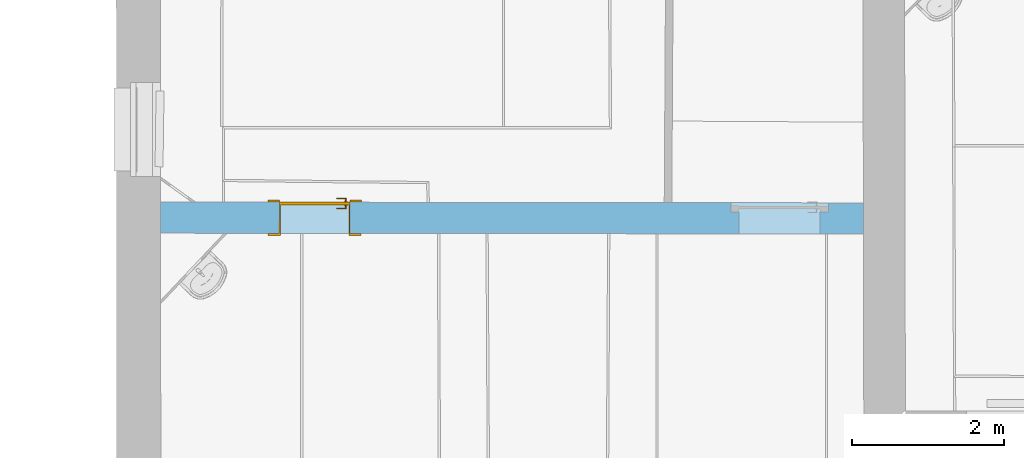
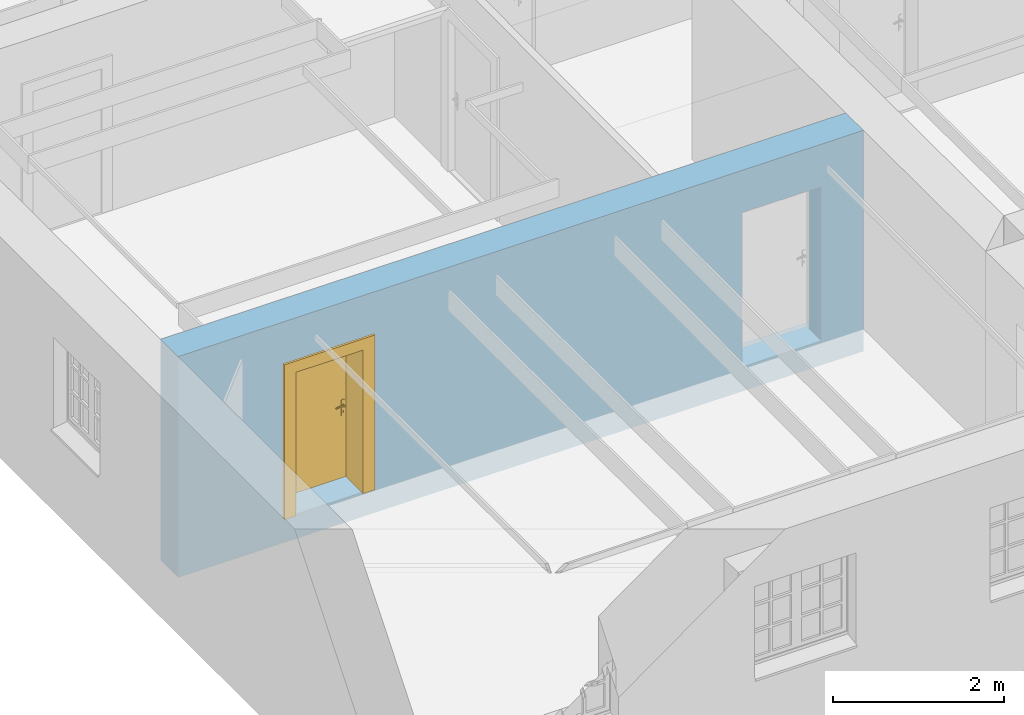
# One storey, part 70 of 196: 1 door, 2 openings, plus 1 element that does not belong to this part.
"""IFC2X3 building model written with IfcOpenShell, lengths in metres."""

from ifc_helpers import new_model, entity, si_unit, converted_unit, derived_unit, money_unit, direction, frame, origin_with_axes, origin_2d_with_axis, place, context, subcontext, project, spatial, polyline, rectangle, outline, extrude, open_shell, faceted_brep, surface_model, material, layer, layer_set, layer_usage, type_object, element, fill, save


model = new_model("IFC2X3")

# Units and contexts
model_context = context("Model", 3, precision=1e-05, world=origin_with_axes(), true_north=direction((0.0, 1.0)))
body_context = subcontext(model_context, "Body", "Model", "MODEL_VIEW")
ifc_project = project(units=[si_unit("LENGTHUNIT", "METRE"), si_unit("AREAUNIT", "SQUARE_METRE"), si_unit("VOLUMEUNIT", "CUBIC_METRE"), converted_unit("PLANEANGLEUNIT", "DEGREE", entity("IfcPlaneAngleMeasure", 0.0174532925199), si_unit("PLANEANGLEUNIT", "RADIAN"), dimensions=[0, 0, 0, 0, 0, 0, 0]), money_unit("EUR"), converted_unit("TIMEUNIT", "Year", entity("IfcTimeMeasure", 31556926.0), si_unit("TIMEUNIT", "SECOND"), dimensions=[0, 0, 1, 0, 0, 0, 0]), si_unit("MASSUNIT", "GRAM", prefix="KILO"), si_unit("THERMODYNAMICTEMPERATUREUNIT", "DEGREE_CELSIUS"), si_unit("LUMINOUSINTENSITYUNIT", "LUMEN"), si_unit("ENERGYUNIT", "JOULE", prefix="MEGA"), derived_unit("THERMALCONDUCTANCEUNIT", [(si_unit("POWERUNIT", "WATT"), 1), (si_unit("LENGTHUNIT", "METRE"), -1), (si_unit("THERMODYNAMICTEMPERATUREUNIT", "KELVIN"), -1)]), derived_unit("SPECIFICHEATCAPACITYUNIT", [(si_unit("ENERGYUNIT", "JOULE"), 1), (si_unit("MASSUNIT", "GRAM", prefix="KILO"), -1), (si_unit("THERMODYNAMICTEMPERATUREUNIT", "KELVIN"), -1)]), derived_unit("MASSDENSITYUNIT", [(si_unit("MASSUNIT", "GRAM", prefix="KILO"), 1), (si_unit("VOLUMEUNIT", "CUBIC_METRE"), -1)])], contexts=[model_context])

# Site, building, storey
site_placement = place(None, origin_with_axes())
site = spatial("IfcSite", under=ifc_project, at=site_placement, Name="Gelände", CompositionType="ELEMENT")
building_placement = place(site_placement, origin_with_axes())
building = spatial("IfcBuilding", under=site, at=building_placement, Name="Gebäude", CompositionType="ELEMENT")
storey_placement = place(building_placement, frame((0.0, 0.0, -3.0), z_axis=(0.0, 0.0, 1.0), x_axis=(1.0, 0.0, 0.0)))
storey = spatial("IfcBuildingStorey", under=building, at=storey_placement, Name="KELLERGESCHOSS", CompositionType="ELEMENT", Elevation=-3.0)

# Wall, openings, door
ifc_material = material(Name="05_ALLGEMEIN - TRAGENDE BAUTEILE")
ifc_layer = layer(ifc_material, 0.41, ventilated="UNKNOWN")
ifc_layer_set = layer_set([ifc_layer], Name="05_ALLGEMEIN - TRAGENDE BAUTEILE 0.41")
ifc_layer_usage = layer_usage(ifc_layer_set, "AXIS2", "POSITIVE", -0.41)
wall_type = type_object("IfcWallType", Name="05_ALLGEMEIN - TRAGENDE BAUTEILE 410", PredefinedType="ELEMENTEDWALL")
wall_placement = place(storey_placement, frame((-28.1163910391, 13.2058554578, -0.36), z_axis=(0.0, 0.0, 1.0), x_axis=(0.999999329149, -0.00115831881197, 0.0)))
wall = element("IfcWallStandardCase", 1, at=wall_placement, inside=storey, type_object=wall_type, material=ifc_layer_usage, Name="Wand-037", ObjectType="ELEMENTEDWALL", context=body_context, shape_type="SweptSolid", body=[
    extrude(outline(polyline([(0.58085918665, -0.41), (9.81587771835, -0.41), (9.81460873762, 0.0), (0.580001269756, 0.0), (0.58085918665, -0.41)])), origin_with_axes(), (0.0, 0.0, 1.0), 3.15),
])
opening_1_placement = place(wall_placement, frame((2.60599601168, 0.0, 0.349034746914), z_axis=(0.0, 0.0, 1.0), x_axis=(1.0, 0.0, 0.0)))
opening_1 = element("IfcOpeningElement", 2, at=opening_1_placement, cuts=wall, Name="Tür-022", context=body_context, shape_type="SweptSolid", body=[
    extrude(rectangle(XDim=0.93260511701, YDim=2.062804, at=origin_2d_with_axis()), frame((0.0, -0.41, 1.031402), z_axis=(0.0, -1.0, 0.0), x_axis=(-1.0, 0.0, 0.0)), (0.0, 0.0, -1.0), 1.23),
])
opening_2_placement = place(wall_placement, frame((8.71472579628, 0.0, 0.347304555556), z_axis=(0.0, 0.0, 1.0), x_axis=(1.0, 0.0, 0.0)))
element("IfcOpeningElement", 3, at=opening_2_placement, cuts=wall, Name="Tür-022", context=body_context, shape_type="SweptSolid", body=[
    extrude(rectangle(XDim=1.06444475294, YDim=2.200287, at=origin_2d_with_axis()), frame((0.0, -0.12, 1.1001435), z_axis=(0.0, -1.0, 0.0), x_axis=(-1.0, 0.0, 0.0)), (0.0, 0.0, 1.0), 0.7),
    extrude(rectangle(XDim=1.28444475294, YDim=2.310287, at=origin_2d_with_axis()), frame((0.0, -0.04, 1.1551435), z_axis=(0.0, 1.0, 0.0), x_axis=(-1.0, 0.0, 0.0)), (0.0, 0.0, -1.0), 0.08),
    extrude(rectangle(XDim=1.28444475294, YDim=2.310287, at=origin_2d_with_axis()), frame((0.0, -0.04, 1.1551435), z_axis=(0.0, 1.0, 0.0), x_axis=(-1.0, 0.0, 0.0)), (0.0, 0.0, 1.0), 0.45),
])
door_style = type_object("IfcDoorStyle", Name="Blockrahmentür 1-Fl 25", ConstructionType="NOTDEFINED", OperationType="SINGLE_SWING_LEFT", ParameterTakesPrecedence=False, Sizeable=False)
door_placement = place(opening_1_placement, frame((-0.451302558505, 0.0, 0.0), z_axis=(0.0, 0.0, 1.0), x_axis=(1.0, 0.0, 0.0)))
door = element("IfcDoor", 4, at=door_placement, inside=storey, type_object=door_style, Name="Tür-022", ObjectType="NOTDEFINED", OverallHeight=2.0628, OverallWidth=0.932605, context=body_context, shape_type="SurfaceModel", body=[
    faceted_brep([(-0.015, -0.44, 0.0), (-0.015, -0.44, 2.062804), (-0.015, -0.035, 2.062804), (-0.015, -0.035, 0.0), (0.0, -0.44, 0.0), (0.0, -0.44, 2.047804), (0.336202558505, -0.44, 2.047804), (0.451202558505, -0.44, 2.047804), (0.90260511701, -0.44, 2.047804), (0.90260511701, -0.44, 0.0), (0.91760511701, -0.44, 0.0), (0.91760511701, -0.44, 2.062804), (0.91760511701, -0.035, 2.062804), (0.91760511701, -0.035, 0.0), (0.90260511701, -0.035, 0.0), (0.90260511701, -0.035, 2.047804), (0.451202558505, -0.035, 2.047804), (0.336202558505, -0.035, 2.047804), (0.0, -0.035, 2.047804), (0.0, -0.035, 0.0)], [[[0, 1, 2, 3]], [[0, 4, 5, 6, 7, 8, 9, 10, 11, 1]], [[1, 11, 12, 2]], [[3, 2, 12, 13, 14, 15, 16, 17, 18, 19]], [[4, 0, 3, 19]], [[5, 4, 19, 18]], [[6, 5, 18, 17]], [[7, 6, 17, 16]], [[8, 7, 16, 15]], [[9, 8, 15, 14]], [[10, 9, 14, 13]], [[11, 10, 13, 12]]]),
    surface_model("IfcShellBasedSurfaceModel", [(-0.015, -0.035, 0.0), (-0.015, -0.035, 2.062804), (-0.015, 0.03, 2.062804), (-0.015, 0.03, 0.0), (0.351202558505, -0.035, 2.062804), (0.436202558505, -0.035, 2.062804), (0.91760511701, -0.035, 2.062804), (0.91760511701, -0.035, 2.062804), (0.91760511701, 0.03, 2.062804), (0.436202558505, 0.03, 2.062804), (0.351202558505, 0.03, 2.062804), (-0.015, 0.03, 2.062804), (-0.015, -0.035, 2.062804), (0.91760511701, 0.03, 2.062804), (0.91760511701, -0.035, 0.0), (0.91760511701, 0.03, 0.0)], [open_shell([[[0, 1, 2, 3]], [[4, 5, 6, 1]], [[1, 7, 8, 2]], [[8, 9, 10, 11]], [[12, 0, 3, 11]], [[4, 12, 11, 10]], [[5, 4, 10, 9]], [[6, 5, 9, 13]], [[14, 6, 13, 15]], [[7, 14, 15, 8]]])]),
    faceted_brep([(-0.16, -0.44, 0.0), (-0.16, -0.44, 2.207804), (-0.16, -0.41, 2.207804), (-0.16, -0.41, 0.0), (-0.015, -0.44, 0.0), (-0.015, -0.44, 2.062804), (0.91760511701, -0.44, 2.062804), (0.91760511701, -0.44, 0.0), (1.06260511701, -0.44, 0.0), (1.06260511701, -0.44, 2.207804), (1.06260511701, -0.41, 2.207804), (1.06260511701, -0.41, 0.0), (0.91760511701, -0.41, 0.0), (0.91760511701, -0.41, 2.062804), (-0.015, -0.41, 2.062804), (-0.015, -0.41, 0.0)], [[[0, 1, 2, 3]], [[0, 4, 5, 6, 7, 8, 9, 1]], [[1, 9, 10, 2]], [[3, 2, 10, 11, 12, 13, 14, 15]], [[4, 0, 3, 15]], [[5, 4, 15, 14]], [[6, 5, 14, 13]], [[7, 6, 13, 12]], [[8, 7, 12, 11]], [[9, 8, 11, 10]]]),
    faceted_brep([(-0.16, 0.0, 0.0), (-0.16, 0.0, 2.207804), (-0.16, 0.03, 2.207804), (-0.16, 0.03, 0.0), (-0.015, 0.0, 0.0), (-0.015, 0.0, 2.062804), (0.91760511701, 0.0, 2.062804), (0.91760511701, 0.0, 0.0), (1.06260511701, 0.0, 0.0), (1.06260511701, 0.0, 2.207804), (1.06260511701, 0.03, 2.207804), (1.06260511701, 0.03, 0.0), (0.91760511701, 0.03, 0.0), (0.91760511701, 0.03, 2.062804), (-0.015, 0.03, 2.062804), (-0.015, 0.03, 0.0)], [[[0, 1, 2, 3]], [[0, 4, 5, 6, 7, 8, 9, 1]], [[1, 9, 10, 2]], [[3, 2, 10, 11, 12, 13, 14, 15]], [[4, 0, 3, 15]], [[5, 4, 15, 14]], [[6, 5, 14, 13]], [[7, 6, 13, 12]], [[8, 7, 12, 11]], [[9, 8, 11, 10]]]),
    faceted_brep([(-0.015, 0.002, 0.0), (-0.015, 0.002, 2.062804), (0.91760511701, 0.002, 2.062804), (0.91760511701, 0.002, 0.0), (-0.015, -0.035, 0.0), (-0.015, -0.035, 2.062804), (0.91760511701, -0.035, 2.062804), (0.91760511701, -0.035, 0.0)], [[[0, 1, 2, 3]], [[0, 4, 5, 1]], [[1, 5, 6, 2]], [[2, 6, 7, 3]], [[3, 7, 4, 0]], [[7, 6, 5, 4]]]),
    faceted_brep([(0.862307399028, -0.075, 1.05647213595), (0.862307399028, -0.055, 1.05647213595), (0.85760511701, -0.055, 1.058), (0.85760511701, -0.075, 1.058), (0.86521356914, -0.075, 1.05247213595), (0.86521356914, -0.055, 1.05247213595), (0.863482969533, -0.053, 1.05809016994), (0.85760511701, -0.053, 1.06), (0.852902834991, -0.055, 1.05647213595), (0.852902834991, -0.075, 1.05647213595), (0.849996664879, -0.075, 1.05247213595), (0.849996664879, -0.075, 1.04752786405), (0.852902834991, -0.075, 1.04352786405), (0.85760511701, -0.075, 1.042), (0.862307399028, -0.075, 1.04352786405), (0.86521356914, -0.075, 1.04752786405), (0.86521356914, -0.055, 1.04752786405), (0.867115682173, -0.053, 1.05309016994), (0.863482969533, -0.045, 1.05809016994), (0.85760511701, -0.045, 1.06), (0.851727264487, -0.053, 1.05809016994), (0.849996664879, -0.055, 1.05247213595), (0.849996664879, -0.055, 1.04752786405), (0.852902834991, -0.055, 1.04352786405), (0.85760511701, -0.055, 1.042), (0.862307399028, -0.055, 1.04352786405), (0.867115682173, -0.053, 1.04690983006), (0.867115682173, -0.045, 1.05309016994), (0.867115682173, -0.045, 1.04690983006), (0.863482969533, -0.045, 1.04190983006), (0.85760511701, -0.045, 1.04), (0.851727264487, -0.045, 1.04190983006), (0.848094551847, -0.045, 1.04690983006), (0.848094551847, -0.045, 1.05309016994), (0.851727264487, -0.045, 1.05809016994), (0.848094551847, -0.053, 1.05309016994), (0.848094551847, -0.053, 1.04690983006), (0.851727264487, -0.053, 1.04190983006), (0.85760511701, -0.053, 1.04), (0.863482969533, -0.053, 1.04190983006)], [[[0, 1, 2, 3]], [[4, 5, 1, 0]], [[1, 6, 7, 2]], [[3, 2, 8, 9]], [[3, 9, 10, 11, 12, 13, 14, 15, 4, 0]], [[15, 16, 5, 4]], [[5, 17, 6, 1]], [[6, 18, 19, 7]], [[2, 7, 20, 8]], [[9, 8, 21, 10]], [[10, 21, 22, 11]], [[11, 22, 23, 12]], [[12, 23, 24, 13]], [[13, 24, 25, 14]], [[14, 25, 16, 15]], [[16, 26, 17, 5]], [[17, 27, 18, 6]], [[19, 18, 27, 28, 29, 30, 31, 32, 33, 34]], [[7, 19, 34, 20]], [[8, 20, 35, 21]], [[21, 35, 36, 22]], [[22, 36, 37, 23]], [[23, 37, 38, 24]], [[24, 38, 39, 25]], [[25, 39, 26, 16]], [[26, 28, 27, 17]], [[39, 29, 28, 26]], [[38, 30, 29, 39]], [[37, 31, 30, 38]], [[36, 32, 31, 37]], [[35, 33, 32, 36]], [[20, 34, 33, 35]]]),
    faceted_brep([(0.845416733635, -0.045, 1.11759695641), (0.84080511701, -0.045, 1.11), (0.83510511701, -0.045, 1.11), (0.83510511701, -0.045, 0.89), (0.84080511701, -0.045, 0.89), (0.845416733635, -0.045, 0.882403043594), (0.853161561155, -0.045, 0.878044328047), (0.862048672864, -0.045, 0.878044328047), (0.869793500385, -0.045, 0.882403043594), (0.87440511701, -0.045, 0.89), (0.88010511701, -0.045, 0.89), (0.88010511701, -0.045, 1.11), (0.87440511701, -0.045, 1.11), (0.869793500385, -0.045, 1.11759695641), (0.862048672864, -0.045, 1.12195567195), (0.853161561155, -0.045, 1.12195567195), (0.85760511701, -0.045, 0.967425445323), (0.862980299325, -0.045, 0.965143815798), (0.865072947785, -0.045, 0.959692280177), (0.86260511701, -0.045, 0.9544), (0.86260511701, -0.045, 0.9375), (0.861140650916, -0.045, 0.933964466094), (0.85760511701, -0.045, 0.9325), (0.854069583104, -0.045, 0.933964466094), (0.85260511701, -0.045, 0.9375), (0.85260511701, -0.045, 0.9544), (0.850137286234, -0.045, 0.959692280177), (0.852229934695, -0.045, 0.965143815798), (0.845416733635, -0.035, 1.11759695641), (0.84080511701, -0.035, 1.11), (0.83510511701, -0.035, 1.11), (0.83510511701, -0.035, 0.89), (0.84080511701, -0.035, 0.89), (0.845416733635, -0.035, 0.882403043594), (0.853161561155, -0.035, 0.878044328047), (0.862048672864, -0.035, 0.878044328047), (0.869793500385, -0.035, 0.882403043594), (0.87440511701, -0.035, 0.89), (0.88010511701, -0.035, 0.89), (0.88010511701, -0.035, 1.11), (0.87440511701, -0.035, 1.11), (0.869793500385, -0.035, 1.11759695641), (0.862048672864, -0.035, 1.12195567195), (0.853161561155, -0.035, 1.12195567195), (0.85760511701, -0.035, 0.967425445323), (0.862980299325, -0.035, 0.965143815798), (0.865072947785, -0.035, 0.959692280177), (0.86260511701, -0.035, 0.9544), (0.86260511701, -0.035, 0.9375), (0.861140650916, -0.035, 0.933964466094), (0.85760511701, -0.035, 0.9325), (0.854069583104, -0.035, 0.933964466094), (0.85260511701, -0.035, 0.9375), (0.85260511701, -0.035, 0.9544), (0.850137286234, -0.035, 0.959692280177), (0.852229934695, -0.035, 0.965143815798)], [[[0, 1, 2, 3, 4, 5, 6, 7, 8, 9, 10, 11, 12, 13, 14, 15], [16, 17, 18, 19, 20, 21, 22, 23, 24, 25, 26, 27]], [[0, 28, 29, 1]], [[1, 29, 30, 2]], [[2, 30, 31, 3]], [[3, 31, 32, 4]], [[4, 32, 33, 5]], [[5, 33, 34, 6]], [[6, 34, 35, 7]], [[7, 35, 36, 8]], [[8, 36, 37, 9]], [[9, 37, 38, 10]], [[10, 38, 39, 11]], [[11, 39, 40, 12]], [[12, 40, 41, 13]], [[13, 41, 42, 14]], [[14, 42, 43, 15]], [[15, 43, 28, 0]], [[16, 44, 45, 17]], [[17, 45, 46, 18]], [[18, 46, 47, 19]], [[47, 48, 20, 19]], [[21, 20, 48, 49]], [[22, 21, 49, 50]], [[23, 22, 50, 51]], [[24, 23, 51, 52]], [[25, 24, 52, 53]], [[25, 53, 54, 26]], [[26, 54, 55, 27]], [[27, 55, 44, 16]], [[32, 31, 30, 29, 28, 43, 42, 41, 40, 39, 38, 37, 36, 35, 34, 33], [46, 45, 44, 55, 54, 53, 52, 51, 50, 49, 48, 47]]]),
    faceted_brep([(0.74335211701, -0.075, 1.057158), (0.743350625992, -0.075, 1.05719388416), (0.743350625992, -0.09, 1.05719388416), (0.74335211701, -0.09, 1.057158), (0.770379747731, -0.075, 1.06432652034), (0.798207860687, -0.075, 1.06706086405), (0.826113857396, -0.075, 1.06529002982), (0.85337311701, -0.075, 1.05906), (0.859775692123, -0.075, 1.05976125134), (0.865277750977, -0.075, 1.05641280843), (0.867596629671, -0.075, 1.05040385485), (0.865770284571, -0.075, 1.04422735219), (0.860556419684, -0.075, 1.04044577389), (0.854118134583, -0.075, 1.04062800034), (0.849126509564, -0.075, 1.04469843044), (0.84914711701, -0.075, 1.044666), (0.823858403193, -0.075, 1.05019878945), (0.798015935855, -0.075, 1.05171460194), (0.772253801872, -0.075, 1.04917624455), (0.74720411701, -0.075, 1.042646), (0.741660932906, -0.075, 1.04356849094), (0.7382993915, -0.075, 1.04807159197), (0.738990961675, -0.075, 1.05364829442), (0.738990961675, -0.09, 1.05364829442), (0.7382993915, -0.09, 1.04807159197), (0.741660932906, -0.09, 1.04356849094), (0.74720411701, -0.09, 1.042646), (0.772253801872, -0.09, 1.04917624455), (0.798015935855, -0.09, 1.05171460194), (0.823858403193, -0.09, 1.05019878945), (0.84914711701, -0.09, 1.044666), (0.849126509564, -0.09, 1.04469843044), (0.854118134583, -0.09, 1.04062800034), (0.860556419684, -0.09, 1.04044577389), (0.865770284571, -0.09, 1.04422735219), (0.867596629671, -0.09, 1.05040385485), (0.865277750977, -0.09, 1.05641280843), (0.859775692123, -0.09, 1.05976125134), (0.85337311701, -0.09, 1.05906), (0.826113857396, -0.09, 1.06529002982), (0.798207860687, -0.09, 1.06706086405), (0.770379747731, -0.09, 1.06432652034)], [[[0, 1, 2, 3]], [[0, 4, 5, 6, 7, 8, 9, 10, 11, 12, 13, 14, 15, 16, 17, 18, 19, 20, 21, 22, 1]], [[1, 22, 23, 2]], [[3, 2, 23, 24, 25, 26, 27, 28, 29, 30, 31, 32, 33, 34, 35, 36, 37, 38, 39, 40, 41]], [[4, 0, 3, 41]], [[5, 4, 41, 40]], [[6, 5, 40, 39]], [[7, 6, 39, 38]], [[8, 7, 38, 37]], [[9, 8, 37, 36]], [[10, 9, 36, 35]], [[11, 10, 35, 34]], [[12, 11, 34, 33]], [[13, 12, 33, 32]], [[14, 13, 32, 31]], [[15, 14, 31, 30]], [[16, 15, 30, 29]], [[17, 16, 29, 28]], [[18, 17, 28, 27]], [[19, 18, 27, 26]], [[20, 19, 26, 25]], [[21, 20, 25, 24]], [[22, 21, 24, 23]]]),
    faceted_brep([(0.862307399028, 0.042, 1.05647213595), (0.85760511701, 0.042, 1.058), (0.85760511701, 0.022, 1.058), (0.862307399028, 0.022, 1.05647213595), (0.86521356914, 0.042, 1.05247213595), (0.86521356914, 0.042, 1.04752786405), (0.862307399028, 0.042, 1.04352786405), (0.85760511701, 0.042, 1.042), (0.852902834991, 0.042, 1.04352786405), (0.849996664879, 0.042, 1.04752786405), (0.849996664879, 0.042, 1.05247213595), (0.852902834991, 0.042, 1.05647213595), (0.852902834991, 0.022, 1.05647213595), (0.85760511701, 0.02, 1.06), (0.863482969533, 0.02, 1.05809016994), (0.86521356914, 0.022, 1.05247213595), (0.86521356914, 0.022, 1.04752786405), (0.862307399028, 0.022, 1.04352786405), (0.85760511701, 0.022, 1.042), (0.852902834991, 0.022, 1.04352786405), (0.849996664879, 0.022, 1.04752786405), (0.849996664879, 0.022, 1.05247213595), (0.851727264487, 0.02, 1.05809016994), (0.85760511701, 0.012, 1.06), (0.863482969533, 0.012, 1.05809016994), (0.867115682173, 0.02, 1.05309016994), (0.867115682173, 0.02, 1.04690983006), (0.863482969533, 0.02, 1.04190983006), (0.85760511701, 0.02, 1.04), (0.851727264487, 0.02, 1.04190983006), (0.848094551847, 0.02, 1.04690983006), (0.848094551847, 0.02, 1.05309016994), (0.851727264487, 0.012, 1.05809016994), (0.848094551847, 0.012, 1.05309016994), (0.848094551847, 0.012, 1.04690983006), (0.851727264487, 0.012, 1.04190983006), (0.85760511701, 0.012, 1.04), (0.863482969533, 0.012, 1.04190983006), (0.867115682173, 0.012, 1.04690983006), (0.867115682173, 0.012, 1.05309016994)], [[[0, 1, 2, 3]], [[1, 0, 4, 5, 6, 7, 8, 9, 10, 11]], [[1, 11, 12, 2]], [[3, 2, 13, 14]], [[4, 0, 3, 15]], [[5, 4, 15, 16]], [[6, 5, 16, 17]], [[7, 6, 17, 18]], [[8, 7, 18, 19]], [[9, 8, 19, 20]], [[10, 9, 20, 21]], [[11, 10, 21, 12]], [[2, 12, 22, 13]], [[14, 13, 23, 24]], [[15, 3, 14, 25]], [[16, 15, 25, 26]], [[17, 16, 26, 27]], [[18, 17, 27, 28]], [[19, 18, 28, 29]], [[20, 19, 29, 30]], [[21, 20, 30, 31]], [[12, 21, 31, 22]], [[13, 22, 32, 23]], [[23, 32, 33, 34, 35, 36, 37, 38, 39, 24]], [[25, 14, 24, 39]], [[26, 25, 39, 38]], [[27, 26, 38, 37]], [[28, 27, 37, 36]], [[29, 28, 36, 35]], [[30, 29, 35, 34]], [[31, 30, 34, 33]], [[22, 31, 33, 32]]]),
    faceted_brep([(0.845416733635, 0.002, 1.11759695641), (0.84080511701, 0.002, 1.11), (0.83510511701, 0.002, 1.11), (0.83510511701, 0.002, 0.89), (0.84080511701, 0.002, 0.89), (0.845416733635, 0.002, 0.882403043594), (0.853161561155, 0.002, 0.878044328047), (0.862048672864, 0.002, 0.878044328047), (0.869793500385, 0.002, 0.882403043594), (0.87440511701, 0.002, 0.89), (0.88010511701, 0.002, 0.89), (0.88010511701, 0.002, 1.11), (0.87440511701, 0.002, 1.11), (0.869793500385, 0.002, 1.11759695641), (0.862048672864, 0.002, 1.12195567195), (0.853161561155, 0.002, 1.12195567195), (0.85760511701, 0.002, 0.967425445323), (0.862980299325, 0.002, 0.965143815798), (0.865072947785, 0.002, 0.959692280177), (0.86260511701, 0.002, 0.9544), (0.86260511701, 0.002, 0.9375), (0.861140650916, 0.002, 0.933964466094), (0.85760511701, 0.002, 0.9325), (0.854069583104, 0.002, 0.933964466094), (0.85260511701, 0.002, 0.9375), (0.85260511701, 0.002, 0.9544), (0.850137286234, 0.002, 0.959692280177), (0.852229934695, 0.002, 0.965143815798), (0.845416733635, 0.012, 1.11759695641), (0.84080511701, 0.012, 1.11), (0.83510511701, 0.012, 1.11), (0.83510511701, 0.012, 0.89), (0.84080511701, 0.012, 0.89), (0.845416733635, 0.012, 0.882403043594), (0.853161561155, 0.012, 0.878044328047), (0.862048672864, 0.012, 0.878044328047), (0.869793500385, 0.012, 0.882403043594), (0.87440511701, 0.012, 0.89), (0.88010511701, 0.012, 0.89), (0.88010511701, 0.012, 1.11), (0.87440511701, 0.012, 1.11), (0.869793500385, 0.012, 1.11759695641), (0.862048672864, 0.012, 1.12195567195), (0.853161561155, 0.012, 1.12195567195), (0.85760511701, 0.012, 0.967425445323), (0.862980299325, 0.012, 0.965143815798), (0.865072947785, 0.012, 0.959692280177), (0.86260511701, 0.012, 0.9544), (0.86260511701, 0.012, 0.9375), (0.861140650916, 0.012, 0.933964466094), (0.85760511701, 0.012, 0.9325), (0.854069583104, 0.012, 0.933964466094), (0.85260511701, 0.012, 0.9375), (0.85260511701, 0.012, 0.9544), (0.850137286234, 0.012, 0.959692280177), (0.852229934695, 0.012, 0.965143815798)], [[[0, 1, 2, 3, 4, 5, 6, 7, 8, 9, 10, 11, 12, 13, 14, 15], [16, 17, 18, 19, 20, 21, 22, 23, 24, 25, 26, 27]], [[28, 29, 1, 0]], [[29, 30, 2, 1]], [[30, 31, 3, 2]], [[31, 32, 4, 3]], [[32, 33, 5, 4]], [[33, 34, 6, 5]], [[34, 35, 7, 6]], [[35, 36, 8, 7]], [[36, 37, 9, 8]], [[37, 38, 10, 9]], [[38, 39, 11, 10]], [[39, 40, 12, 11]], [[40, 41, 13, 12]], [[41, 42, 14, 13]], [[42, 43, 15, 14]], [[43, 28, 0, 15]], [[16, 44, 45, 17]], [[17, 45, 46, 18]], [[18, 46, 47, 19]], [[47, 48, 20, 19]], [[21, 20, 48, 49]], [[22, 21, 49, 50]], [[23, 22, 50, 51]], [[24, 23, 51, 52]], [[25, 24, 52, 53]], [[25, 53, 54, 26]], [[26, 54, 55, 27]], [[27, 55, 44, 16]], [[32, 31, 30, 29, 28, 43, 42, 41, 40, 39, 38, 37, 36, 35, 34, 33], [46, 45, 44, 55, 54, 53, 52, 51, 50, 49, 48, 47]]]),
    faceted_brep([(0.74335211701, 0.042, 1.057158), (0.74335211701, 0.057, 1.057158), (0.743350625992, 0.057, 1.05719388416), (0.743350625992, 0.042, 1.05719388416), (0.770379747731, 0.042, 1.06432652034), (0.770379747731, 0.057, 1.06432652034), (0.798207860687, 0.057, 1.06706086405), (0.826113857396, 0.057, 1.06529002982), (0.85337311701, 0.057, 1.05906), (0.859775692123, 0.057, 1.05976125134), (0.865277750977, 0.057, 1.05641280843), (0.867596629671, 0.057, 1.05040385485), (0.865770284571, 0.057, 1.04422735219), (0.860556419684, 0.057, 1.04044577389), (0.854118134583, 0.057, 1.04062800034), (0.849126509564, 0.057, 1.04469843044), (0.84914711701, 0.057, 1.044666), (0.823858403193, 0.057, 1.05019878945), (0.798015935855, 0.057, 1.05171460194), (0.772253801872, 0.057, 1.04917624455), (0.74720411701, 0.057, 1.042646), (0.741660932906, 0.057, 1.04356849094), (0.7382993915, 0.057, 1.04807159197), (0.738990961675, 0.057, 1.05364829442), (0.738990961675, 0.042, 1.05364829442), (0.7382993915, 0.042, 1.04807159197), (0.741660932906, 0.042, 1.04356849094), (0.74720411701, 0.042, 1.042646), (0.772253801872, 0.042, 1.04917624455), (0.798015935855, 0.042, 1.05171460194), (0.823858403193, 0.042, 1.05019878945), (0.84914711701, 0.042, 1.044666), (0.849126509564, 0.042, 1.04469843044), (0.854118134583, 0.042, 1.04062800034), (0.860556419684, 0.042, 1.04044577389), (0.865770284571, 0.042, 1.04422735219), (0.867596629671, 0.042, 1.05040385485), (0.865277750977, 0.042, 1.05641280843), (0.859775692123, 0.042, 1.05976125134), (0.85337311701, 0.042, 1.05906), (0.826113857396, 0.042, 1.06529002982), (0.798207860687, 0.042, 1.06706086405)], [[[0, 1, 2, 3]], [[4, 5, 1, 0]], [[1, 5, 6, 7, 8, 9, 10, 11, 12, 13, 14, 15, 16, 17, 18, 19, 20, 21, 22, 23, 2]], [[3, 2, 23, 24]], [[0, 3, 24, 25, 26, 27, 28, 29, 30, 31, 32, 33, 34, 35, 36, 37, 38, 39, 40, 41, 4]], [[41, 6, 5, 4]], [[40, 7, 6, 41]], [[39, 8, 7, 40]], [[38, 9, 8, 39]], [[37, 10, 9, 38]], [[36, 11, 10, 37]], [[35, 12, 11, 36]], [[34, 13, 12, 35]], [[33, 14, 13, 34]], [[32, 15, 14, 33]], [[31, 16, 15, 32]], [[30, 17, 16, 31]], [[29, 18, 17, 30]], [[28, 19, 18, 29]], [[27, 20, 19, 28]], [[26, 21, 20, 27]], [[25, 22, 21, 26]], [[24, 23, 22, 25]]]),
])
fill(opening_1, door)

save(model, "model.ifc")
